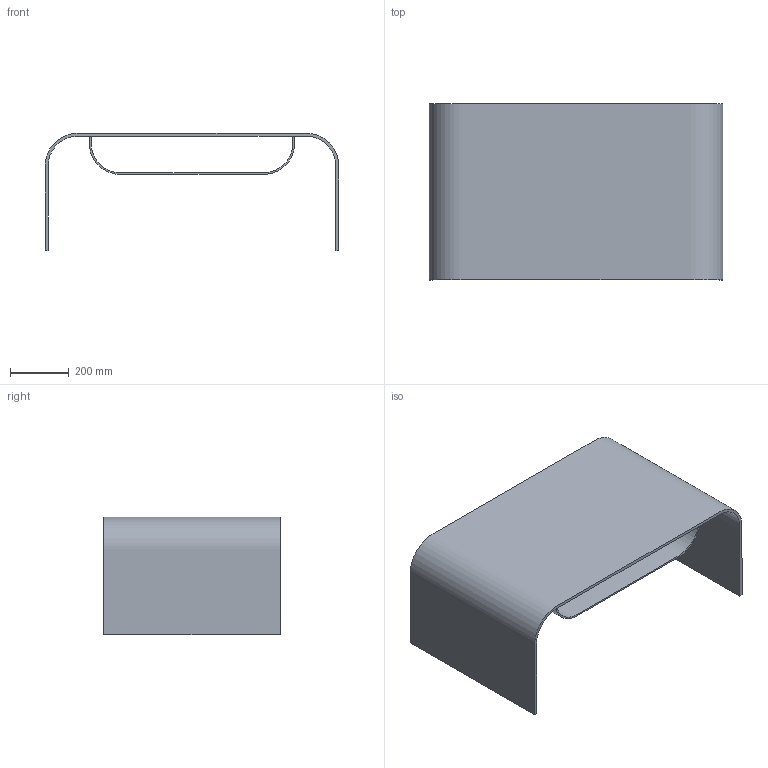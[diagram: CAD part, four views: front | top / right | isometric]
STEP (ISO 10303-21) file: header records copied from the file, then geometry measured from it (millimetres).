
FILE_DESCRIPTION(/* description */ (''),/* implementation_level */ '2;1');
FILE_NAME(/* name */ '0180 - Giano 100x60',/* time_stamp */ '2010-11-03T17:47:55+01:00',/* author */ (''),/* organization */ (''),/* preprocessor_version */ 'ST-DEVELOPER v10',/* originating_system */ '',/* authorisation */ '');
FILE_SCHEMA (('CONFIG_CONTROL_DESIGN'));
Length unit declared in the file: centimetre
Products named in the file (1): 1
Bounding box: 1000 x 600 x 400 mm (x, y, z)
Volume: 12416343.1 mm3; surface area: 2961413.2 mm2
Topology: 2 solids, 2 shells, 13 faces, 27 edges, 18 vertices
Faces by surface type: plane 8, bspline 5
Entity records: 515 total; most frequent: CARTESIAN_POINT 242, ORIENTED_EDGE 54, EDGE_CURVE 27, VERTEX_POINT 18, B_SPLINE_CURVE_WITH_KNOTS 17, ADVANCED_FACE 13, FACE_OUTER_BOUND 13, EDGE_LOOP 13
